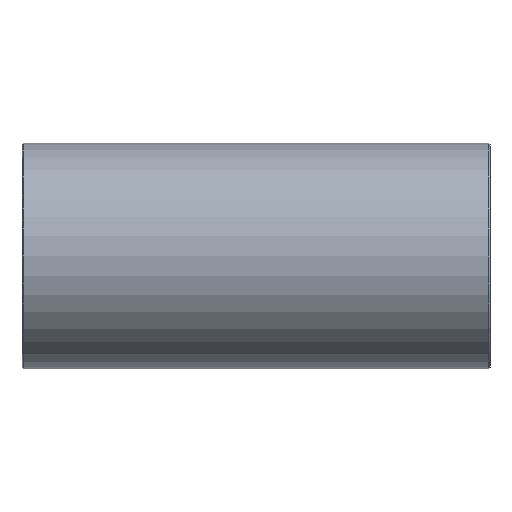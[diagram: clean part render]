
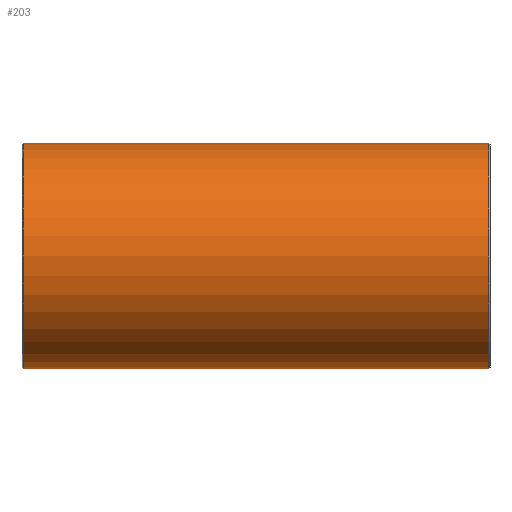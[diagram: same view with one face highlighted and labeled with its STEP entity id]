
A CAD part, front view. The second image highlights one B-rep face of the part: STEP entity #203.
In plain terms, the highlighted cylindrical face has radius 16.25 mm (diameter 32.5 mm), a full revolution.
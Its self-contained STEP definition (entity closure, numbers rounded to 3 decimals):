
#73=CARTESIAN_POINT('',(33.5,16.25,0.));
#74=VERTEX_POINT('',#73);
#75=CARTESIAN_POINT('',(33.5,0.0,0.0));
#76=DIRECTION('',(1.0,0.0,0.0));
#77=DIRECTION('',(0.0,-1.0,0.0));
#78=AXIS2_PLACEMENT_3D('',#75,#76,#77);
#79=CIRCLE('',#78,16.25);
#80=EDGE_CURVE('',#74,#74,#79,.T.);
#116=CARTESIAN_POINT('',(0.,0.0,0.0));
#117=DIRECTION('',(1.0,0.0,0.0));
#118=DIRECTION('',(0.0,1.0,0.0));
#119=AXIS2_PLACEMENT_3D('',#116,#117,#118);
#120=CYLINDRICAL_SURFACE('',#119,16.25);
#121=CARTESIAN_POINT('',(-33.5,16.25,0.));
#122=VERTEX_POINT('',#121);
#123=CARTESIAN_POINT('',(-33.5,0.0,0.0));
#124=DIRECTION('',(-1.0,0.0,0.0));
#125=DIRECTION('',(0.0,-1.0,0.0));
#126=AXIS2_PLACEMENT_3D('',#123,#124,#125);
#127=CIRCLE('',#126,16.25);
#128=EDGE_CURVE('',#122,#122,#127,.T.);
#129=ORIENTED_EDGE('',*,*,#128,.F.);
#130=EDGE_LOOP('',(#129));
#131=FACE_OUTER_BOUND('',#130,.T.);
#132=CARTESIAN_POINT('',(0.,10.781,12.159));
#133=VERTEX_POINT('',#132);
#134=CARTESIAN_POINT('',(0.,10.781,12.159));
#135=CARTESIAN_POINT('',(0.62,10.781,12.159));
#136=CARTESIAN_POINT('',(1.859,10.844,12.103));
#137=CARTESIAN_POINT('',(3.682,11.117,11.856));
#138=CARTESIAN_POINT('',(5.11,11.455,11.529));
#139=CARTESIAN_POINT('',(6.203,11.774,11.202));
#140=CARTESIAN_POINT('',(7.263,12.118,10.832));
#141=CARTESIAN_POINT('',(8.524,12.586,10.292));
#142=CARTESIAN_POINT('',(9.915,13.171,9.534));
#143=CARTESIAN_POINT('',(11.189,13.757,8.672));
#144=CARTESIAN_POINT('',(12.738,14.519,7.369));
#145=CARTESIAN_POINT('',(13.903,15.138,6.));
#146=CARTESIAN_POINT('',(14.898,15.683,4.327));
#147=CARTESIAN_POINT('',(15.4,15.966,3.135));
#148=CARTESIAN_POINT('',(15.719,16.147,1.907));
#149=CARTESIAN_POINT('',(15.916,16.259,0.646));
#150=CARTESIAN_POINT('',(15.916,16.259,-0.638));
#151=CARTESIAN_POINT('',(15.723,16.149,-1.89));
#152=CARTESIAN_POINT('',(15.404,15.968,-3.128));
#153=CARTESIAN_POINT('',(14.773,15.613,-4.62));
#154=CARTESIAN_POINT('',(13.714,15.036,-6.239));
#155=CARTESIAN_POINT('',(12.371,14.335,-7.707));
#156=CARTESIAN_POINT('',(10.971,13.652,-8.84));
#157=CARTESIAN_POINT('',(9.62,13.044,-9.704));
#158=CARTESIAN_POINT('',(8.363,12.525,-10.363));
#159=CARTESIAN_POINT('',(7.019,12.031,-10.931));
#160=CARTESIAN_POINT('',(5.599,11.584,-11.401));
#161=CARTESIAN_POINT('',(4.08,11.203,-11.774));
#162=CARTESIAN_POINT('',(2.615,10.947,-12.01));
#163=CARTESIAN_POINT('',(1.256,10.81,-12.133));
#164=CARTESIAN_POINT('',(0.01,10.767,-12.171));
#165=CARTESIAN_POINT('',(-1.237,10.809,-12.134));
#166=CARTESIAN_POINT('',(-2.868,10.972,-11.988));
#167=CARTESIAN_POINT('',(-4.454,11.283,-11.7));
#168=CARTESIAN_POINT('',(-5.942,11.691,-11.29));
#169=CARTESIAN_POINT('',(-7.353,12.143,-10.808));
#170=CARTESIAN_POINT('',(-9.01,12.775,-10.07));
#171=CARTESIAN_POINT('',(-10.801,13.569,-8.979));
#172=CARTESIAN_POINT('',(-12.362,14.331,-7.714));
#173=CARTESIAN_POINT('',(-13.856,15.109,-6.087));
#174=CARTESIAN_POINT('',(-14.758,15.606,-4.622));
#175=CARTESIAN_POINT('',(-15.259,15.886,-3.436));
#176=CARTESIAN_POINT('',(-15.824,16.206,-1.817));
#177=CARTESIAN_POINT('',(-16.015,16.316,-0.003));
#178=CARTESIAN_POINT('',(-15.722,16.148,1.897));
#179=CARTESIAN_POINT('',(-15.404,15.968,3.125));
#180=CARTESIAN_POINT('',(-14.905,15.687,4.312));
#181=CARTESIAN_POINT('',(-14.243,15.324,5.43));
#182=CARTESIAN_POINT('',(-13.675,15.018,6.224));
#183=CARTESIAN_POINT('',(-13.045,14.686,6.971));
#184=CARTESIAN_POINT('',(-11.883,14.091,8.149));
#185=CARTESIAN_POINT('',(-10.585,13.466,9.128));
#186=CARTESIAN_POINT('',(-9.221,12.879,9.913));
#187=CARTESIAN_POINT('',(-8.279,12.496,10.396));
#188=CARTESIAN_POINT('',(-7.021,12.028,10.936));
#189=CARTESIAN_POINT('',(-5.397,11.523,11.464));
#190=CARTESIAN_POINT('',(-3.964,11.184,11.791));
#191=CARTESIAN_POINT('',(-2.776,10.981,11.979));
#192=CARTESIAN_POINT('',(-1.555,10.829,12.117));
#193=CARTESIAN_POINT('',(-0.62,10.781,12.159));
#194=CARTESIAN_POINT('',(0.,10.781,12.159));
#195=B_SPLINE_CURVE_WITH_KNOTS('',3,(#134,#135,#136,#137,#138,#139,#140,#141,#142,#143,#144,#145,#146,#147,#148,#149,#150,#151,#152,#153,#154,#155,#156,#157,#158,#159,#160,#161,#162,#163,#164,#165,#166,#167,#168,#169,#170,#171,#172,#173,#174,#175,#176,#177,#178,#179,#180,#181,#182,#183,#184,#185,#186,#187,#188,#189,#190,#191,#192,#193,#194),.UNSPECIFIED.,.T.,.U.,(4,1,1,1,1,1,1,1,1,1,1,1,1,1,1,1,1,1,1,1,1,1,1,1,1,1,1,1,1,1,1,1,1,1,1,1,1,1,1,1,1,1,1,1,1,1,1,1,1,1,1,1,1,1,1,1,1,1,4),(-6.847,-6.725,-6.603,-6.48,-6.419,-6.358,-6.236,-6.114,-5.991,-5.869,-5.625,-5.543,-5.38,-5.298,-5.217,-5.054,-4.972,-4.891,-4.728,-4.565,-4.402,-4.239,-4.13,-4.021,-3.913,-3.804,-3.695,-3.587,-3.505,-3.424,-3.342,-3.261,-3.098,-3.016,-2.935,-2.772,-2.608,-2.445,-2.282,-2.065,-2.011,-1.956,-1.63,-1.549,-1.467,-1.304,-1.223,-1.141,-1.06,-0.978,-0.734,-0.673,-0.611,-0.489,-0.367,-0.245,-0.183,-0.122,0.0),.UNSPECIFIED.);
#196=EDGE_CURVE('',#133,#133,#195,.T.);
#197=ORIENTED_EDGE('',*,*,#196,.F.);
#198=EDGE_LOOP('',(#197));
#199=FACE_BOUND('',#198,.T.);
#200=ORIENTED_EDGE('',*,*,#80,.F.);
#201=EDGE_LOOP('',(#200));
#202=FACE_BOUND('',#201,.T.);
#203=ADVANCED_FACE('',(#131,#199,#202),#120,.T.);
